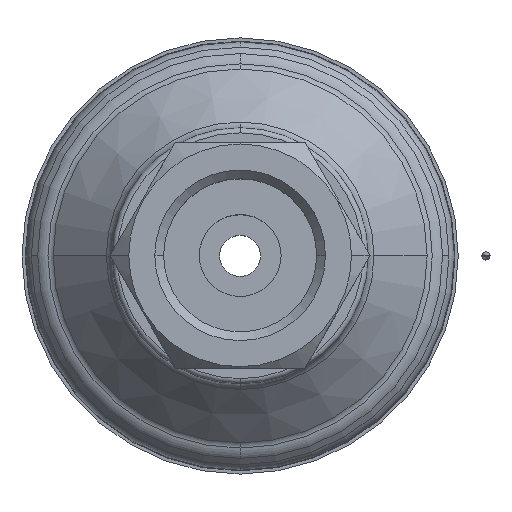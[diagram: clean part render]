
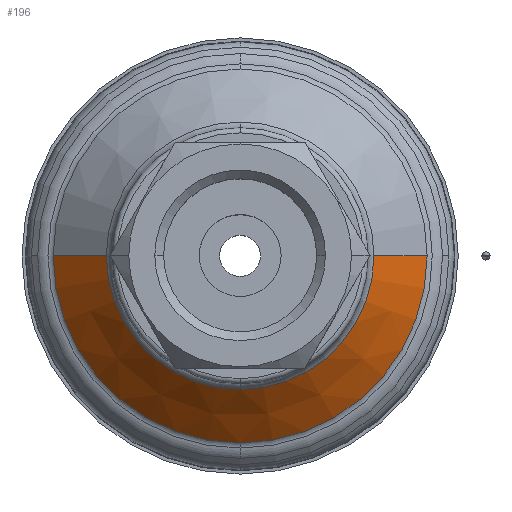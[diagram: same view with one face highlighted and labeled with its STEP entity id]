
A CAD part, top view. The second image highlights one B-rep face of the part: STEP entity #196.
In plain terms, the highlighted conical face has half-angle 44 degrees and reference radius 15.659 mm.
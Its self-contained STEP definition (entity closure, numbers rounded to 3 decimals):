
#196=ADVANCED_FACE('',(#472),#473,.T.);
#472=FACE_OUTER_BOUND('',#840,.T.);
#473=CONICAL_SURFACE('',#841,15.659,0.768);
#840=EDGE_LOOP('',(#1353,#1354,#1355,#1356,#1357,#1358));
#841=AXIS2_PLACEMENT_3D('',#1359,#1360,#1361);
#1353=ORIENTED_EDGE('',*,*,#2229,.F.);
#1354=ORIENTED_EDGE('',*,*,#2230,.T.);
#1355=ORIENTED_EDGE('',*,*,#2231,.T.);
#1356=ORIENTED_EDGE('',*,*,#2232,.F.);
#1357=ORIENTED_EDGE('',*,*,#2224,.F.);
#1358=ORIENTED_EDGE('',*,*,#2233,.F.);
#1359=CARTESIAN_POINT('',(0.0,0.,6.232));
#1360=DIRECTION('',(0.0,0.,-1.0));
#1361=DIRECTION('',(1.0,0.0,0.0));
#2224=EDGE_CURVE('',#2680,#2682,#2683,.T.);
#2229=EDGE_CURVE('',#2689,#2690,#2691,.T.);
#2230=EDGE_CURVE('',#2689,#2692,#2693,.T.);
#2231=EDGE_CURVE('',#2692,#2694,#2695,.T.);
#2232=EDGE_CURVE('',#2682,#2694,#2696,.T.);
#2233=EDGE_CURVE('',#2690,#2680,#2697,.T.);
#2680=VERTEX_POINT('',#3253);
#2682=VERTEX_POINT('',#3255);
#2683=CIRCLE('',#3256,18.257);
#2689=VERTEX_POINT('',#3262);
#2690=VERTEX_POINT('',#3263);
#2691=LINE('',#3264,#3265);
#2692=VERTEX_POINT('',#3266);
#2693=CIRCLE('',#3267,13.061);
#2694=VERTEX_POINT('',#3268);
#2695=CIRCLE('',#3269,13.061);
#2696=LINE('',#3270,#3271);
#2697=CIRCLE('',#3272,18.257);
#3253=CARTESIAN_POINT('',(0.,-18.257,3.542));
#3255=CARTESIAN_POINT('',(-18.257,0.,3.542));
#3256=AXIS2_PLACEMENT_3D('',#4028,#4029,#4030);
#3262=CARTESIAN_POINT('',(13.061,0.,8.923));
#3263=CARTESIAN_POINT('',(18.257,0.,3.542));
#3264=CARTESIAN_POINT('',(15.659,0.,6.232));
#3265=VECTOR('',#4040,1.0);
#3266=CARTESIAN_POINT('',(0.,-13.061,8.923));
#3267=AXIS2_PLACEMENT_3D('',#4041,#4042,#4043);
#3268=CARTESIAN_POINT('',(-13.061,0.,8.923));
#3269=AXIS2_PLACEMENT_3D('',#4044,#4045,#4046);
#3270=CARTESIAN_POINT('',(-15.659,0.,6.232));
#3271=VECTOR('',#4047,1.0);
#3272=AXIS2_PLACEMENT_3D('',#4048,#4049,#4050);
#4028=CARTESIAN_POINT('',(0.0,0.,3.542));
#4029=DIRECTION('',(0.0,0.,-1.0));
#4030=DIRECTION('',(1.0,0.0,0.0));
#4040=DIRECTION('',(0.695,0.,-0.719));
#4041=CARTESIAN_POINT('',(0.0,0.,8.923));
#4042=DIRECTION('',(0.0,0.,-1.0));
#4043=DIRECTION('',(1.0,0.0,0.0));
#4044=CARTESIAN_POINT('',(0.0,0.,8.923));
#4045=DIRECTION('',(0.0,0.,-1.0));
#4046=DIRECTION('',(1.0,0.0,0.0));
#4047=DIRECTION('',(0.695,0.,0.719));
#4048=CARTESIAN_POINT('',(0.0,0.,3.542));
#4049=DIRECTION('',(0.0,0.,-1.0));
#4050=DIRECTION('',(1.0,0.0,0.0));
